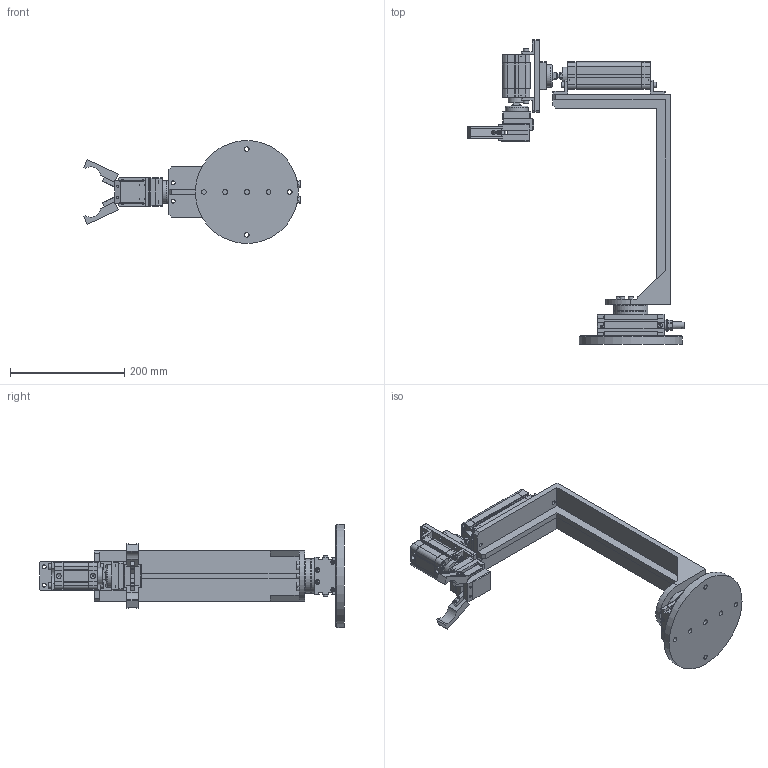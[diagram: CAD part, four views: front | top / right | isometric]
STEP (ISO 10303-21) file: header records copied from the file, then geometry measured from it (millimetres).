
FILE_DESCRIPTION(/* description */ (''),/* implementation_level */ '2;1');
FILE_NAME(/* name */ 'C:\Users\admin\Desktop\inventor\robot pneumatico lineare 3\step\robot_pneumatico_lineare_pinza.stp',/* time_stamp */ '2021-08-26T10:38:24+02:00',/* author */ ('admin'),/* organization */ (''),/* preprocessor_version */ 'ST-DEVELOPER v18.1',/* originating_system */ 'Autodesk Inventor 2022',/* authorisation */ '');
FILE_SCHEMA (('AUTOMOTIVE_DESIGN { 1 0 10303 214 3 1 1 }'));
Length unit declared in the file: millimetre
Products named in the file (23): robot_pneumatico_lineare_pinza; W1630252180_1--; W1630202180_1__-(1); base; W1590200200_OPEN; W15902002002-p; 7-20.2; Pick and place mechanism 5, 3dmechanicaldesign com_101; 2300320030FP/0-GA-0-A-0-0; 230-32/30-CMPC2F-BR; 230-32/30-CMPC2F-PR; supporto_pinza; 2300320100FP/0-GA-M-0-A-0-0; 230-32-CMPC2F-HF; 230-32/100-CMPC2F-BR; 230-32-CMPC2F-HR; W0950322001-25_; Cylinder head screw DIN 912 M6x16; 230-32/100-CMPC2F-PR; W0950326021-13; supporto_cilindro_2; telaio; ANSI B18.3.1M - M5x0,8 x 20, BSHCSM
Assembly tree (44 placements, depth 3):
  robot_pneumatico_lineare_pinza
    Pick and place mechanism 5, 3dmechanicaldesign com_101  x2
    W1630252180_1--
      W1630202180_1__-(1)
    base
    W1590200200_OPEN
      W15902002002-p
      7-20.2  x2
    2300320030FP/0-GA-0-A-0-0
      230-32-CMPC2F-HF
      230-32/30-CMPC2F-BR
      230-32-CMPC2F-HR
      W0950322001-25_  x2
      Cylinder head screw DIN 912 M6x16  x4
      230-32/30-CMPC2F-PR
      W0950326021-13
    supporto_pinza
    2300320100FP/0-GA-M-0-A-0-0
      230-32-CMPC2F-HF
      230-32/100-CMPC2F-BR
      230-32-CMPC2F-HR
      W0950322001-25_  x2
      Cylinder head screw DIN 912 M6x16  x4
      230-32/100-CMPC2F-PR
      W0950326021-13
    supporto_cilindro_2
    telaio
    ANSI B18.3.1M - M5x0,8 x 20, BSHCSM  x8
Bounding box: 378.63 x 532.25 x 180 mm (x, y, z)
Volume: 1968278.8 mm3; surface area: 498567.4 mm2
Topology: 40 solids, 41 shells, 2242 faces, 5671 edges, 3698 vertices
Faces by surface type: plane 1303, cylinder 744, cone 133, torus 56, sphere 6
Full cylindrical faces by diameter (mm): 2.5 x6, 3.242 x12, 3.8 x2, 4 x24, 4.134 x4, 4.917 x28, 5 x9, 6 x18, 6.5 x16, 6.6 x26, 7 x30, 7.5 x8, 7.6 x16, 7.691 x2, 8 x28, 8.376 x4, 8.5 x8, 8.566 x4, 8.647 x2, 9 x18, 10 x10, 11 x8, 12 x5, 14 x6, 17 x4, 18 x2, 20 x2, 24 x1, 27 x1, 28 x2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
Entity records: 45234 total; most frequent: DIRECTION 7808, CARTESIAN_POINT 7606, ORIENTED_EDGE 7244, EDGE_CURVE 3622, AXIS2_PLACEMENT_3D 2699, LINE 2410, VECTOR 2410, VERTEX_POINT 2367
